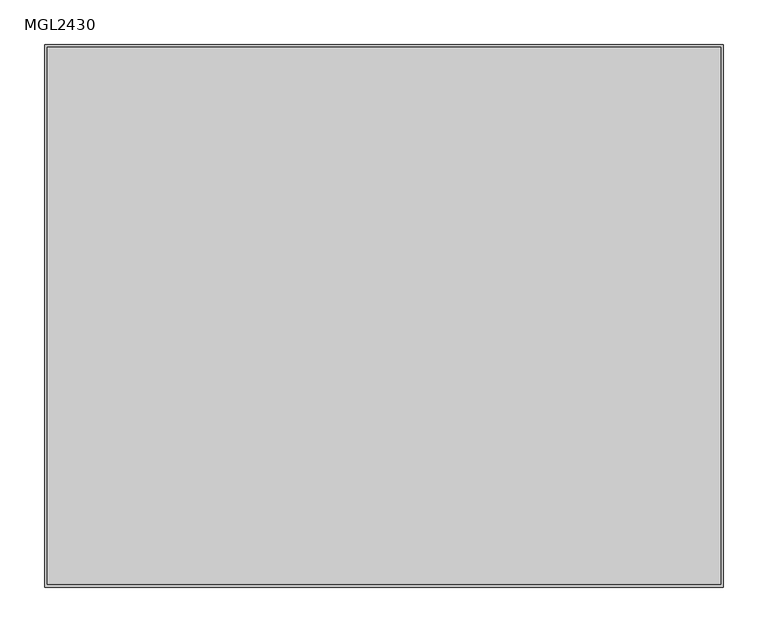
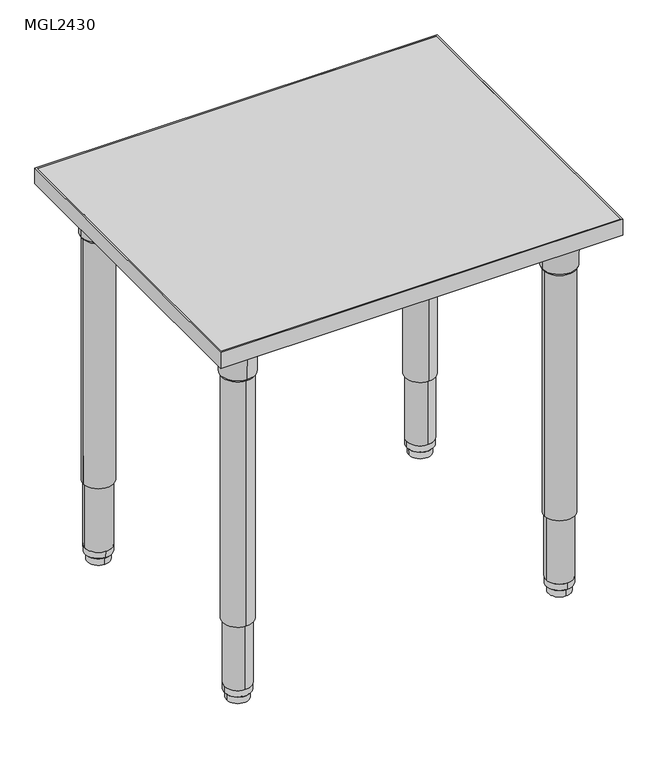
"""IFC4 building model written with IfcOpenShell, lengths in millimetres: furniture geometry, ERG-Mingle-Table-Rectangle : MGL2430."""

from ifc_helpers import new_model, si_unit, point, frame, frame_2d, origin, place, context, project, spatial, polyline, circle_curve, trimmed, segment, composite_curve, outline, extrude, source, transform, mapped, element, save
from ifc_brep_helpers import plane_surface, cylinder_surface, revolved_surface, advanced_brep


def mgl2430_6a437351(model_context):
    return source(origin(), model_context, "Body", "SolidModel", [
        advanced_brep(
        [(274.7646842, -228.6, 650.5933069), (334.8353158, -228.6, 650.5933069), (304.8, -228.6, 650.5933069), (272.656117, -228.6, 654.3580481), (336.943883, -228.6, 654.3580481), (271.7206351, -228.6, 707.7631458), (337.8793649, -228.6, 707.7631458), (268.271083, -228.6, 714.1198315), (341.328917, -228.6, 714.1198315), (268.271083, -228.6, 726.8198315), (341.328917, -228.6, 726.8198315), (304.8, -228.6, 726.8198315)],
        [
            (0, 1, circle_curve(frame((304.8, -228.6, 650.5933069), z_axis=(0.0, 0.0, -1.0), x_axis=(1.0, 0.0, 0.0)), 30.0353158)),
            (1, 2),
            (2, 0),
            (1, 0, circle_curve(frame((304.8, -228.6, 650.5933069), z_axis=(0.0, 0.0, -1.0), x_axis=(1.0, 0.0, 0.0)), 30.0353158)),
            (3, 4, circle_curve(frame((304.8, -228.6, 654.3580481), z_axis=(0.0, 0.0, -1.0), x_axis=(1.0, 0.0, 0.0)), 32.143883)),
            (4, 1),
            (0, 3),
            (4, 3, circle_curve(frame((304.8, -228.6, 654.3580481), z_axis=(0.0, 0.0, -1.0), x_axis=(1.0, 0.0, 0.0)), 32.143883)),
            (5, 6, circle_curve(frame((304.8, -228.6, 707.7631458), z_axis=(0.0, 0.0, -1.0), x_axis=(1.0, 0.0, 0.0)), 33.0793649)),
            (6, 4),
            (3, 5),
            (6, 5, circle_curve(frame((304.8, -228.6, 707.7631458), z_axis=(0.0, 0.0, -1.0), x_axis=(1.0, 0.0, 0.0)), 33.0793649)),
            (7, 8, circle_curve(frame((304.8, -228.6, 714.1198315), z_axis=(0.0, 0.0, -1.0), x_axis=(1.0, 0.0, 0.0)), 36.528917)),
            (8, 6),
            (5, 7),
            (8, 7, circle_curve(frame((304.8, -228.6, 714.1198315), z_axis=(0.0, 0.0, -1.0), x_axis=(1.0, 0.0, 0.0)), 36.528917)),
            (9, 10, circle_curve(frame((304.8, -228.6, 726.8198315), z_axis=(0.0, 0.0, -1.0), x_axis=(1.0, 0.0, 0.0)), 36.528917)),
            (10, 8),
            (7, 9),
            (10, 9, circle_curve(frame((304.8, -228.6, 726.8198315), z_axis=(0.0, 0.0, -1.0), x_axis=(1.0, 0.0, 0.0)), 36.528917)),
            (11, 10),
            (9, 11),
        ],
        [
            plane_surface(frame((304.8, -228.6, 650.5933069), z_axis=(0.0, 0.0, -1.0), x_axis=(1.0, 0.0, 0.0))),
            revolved_surface(polyline([(334.8353158, -228.6, 650.5933069), (336.943883, -228.6, 654.3580481)]), (304.8, -228.6, 726.8198315), (0.0, 0.0, 1.0)),
            revolved_surface(polyline([(336.943883, -228.6, 654.3580481), (337.8793649, -228.6, 707.7631458)]), (304.8, -228.6, 726.8198315), (0.0, 0.0, 1.0)),
            revolved_surface(polyline([(337.8793649, -228.6, 707.7631458), (341.328917, -228.6, 714.1198315)]), (304.8, -228.6, 726.8198315), (0.0, 0.0, 1.0)),
            cylinder_surface(frame((304.8, -228.6, 726.8198315), z_axis=(0.0, 0.0, 1.0), x_axis=(1.0, 0.0, 0.0)), 36.528917),
            plane_surface(frame((304.8, -228.6, 726.8198315), z_axis=(0.0, 0.0, 1.0), x_axis=(1.0, 0.0, 0.0))),
        ],
        [
            (0, [[1, 2, 3]]),
            (0, [[4, -3, -2]]),
            (1, [[5, 6, -1, 7]]),
            (1, [[8, -7, -4, -6]]),
            (2, [[9, 10, -5, 11]]),
            (2, [[12, -11, -8, -10]]),
            (3, [[13, 14, -9, 15]]),
            (3, [[16, -15, -12, -14]]),
            (4, [[17, 18, -13, 19]]),
            (4, [[20, -19, -16, -18]]),
            (5, [[21, -17, 22]]),
            (5, [[-22, -20, -21]]),
        ],
    ),
        extrude(outline(composite_curve([segment(polyline([(350.673768, -146.0223426), (350.673768, -259.7483754)]), True, "CONTINUOUS"), segment(trimmed(circle_curve(frame_2d((334.798768, -259.7483754)), 15.875), [point((350.673768, -259.7483754))], [point((334.798768, -275.6233754))], False, "CARTESIAN"), True, "CONTINUOUS"), segment(polyline([(334.798768, -275.6233754), (221.0864205, -275.6233754)]), True, "CONTINUOUS"), segment(trimmed(circle_curve(frame_2d((221.0864205, -262.9233754)), 12.7), [point((221.0864205, -275.6233754))], [point((208.4491923, -261.6622394))], False, "CARTESIAN"), True, "CONTINUOUS"), segment(trimmed(circle_curve(frame_2d((350.9486077, -275.8830117)), 143.2072406), [point((208.4491923, -261.6622394))], [point((336.7111525, -133.3852622))], False, "CARTESIAN"), True, "CONTINUOUS"), segment(trimmed(circle_curve(frame_2d((337.973768, -146.0223426)), 12.7), [point((336.7111525, -133.3852622))], [point((350.673768, -146.0223426))], False, "CARTESIAN"), True, "CONTINUOUS")], self_intersect=False)), frame((0.0, 0.0, 726.8198315), z_axis=(0.0, 0.0, 1.0), x_axis=(1.0, 0.0, 0.0)), (0.0, 0.0, 1.0), 3.4301685),
        extrude(outline(composite_curve([segment(trimmed(circle_curve(frame_2d((304.8, -228.6)), 28.575), [point((333.375, -228.6))], [point((276.225, -228.6))], False, "CARTESIAN"), True, "CONTINUOUS"), segment(trimmed(circle_curve(frame_2d((304.8, -228.6)), 28.575), [point((276.225, -228.6))], [point((333.375, -228.6))], False, "CARTESIAN"), True, "CONTINUOUS")], self_intersect=False)), frame((0.0, 0.0, 158.3876979), z_axis=(0.0, 0.0, 1.0), x_axis=(1.0, 0.0, 0.0)), (0.0, 0.0, 1.0), 495.4089866),
        extrude(outline(composite_curve([segment(trimmed(circle_curve(frame_2d((304.8, -228.6)), 25.4), [point((330.2, -228.6))], [point((279.4, -228.6))], False, "CARTESIAN"), True, "CONTINUOUS"), segment(trimmed(circle_curve(frame_2d((304.8, -228.6)), 25.4), [point((279.4, -228.6))], [point((330.2, -228.6))], False, "CARTESIAN"), True, "CONTINUOUS")], self_intersect=False)), frame((0.0, 0.0, 28.9580435), z_axis=(0.0, 0.0, 1.0), x_axis=(1.0, 0.0, 0.0)), (0.0, 0.0, 1.0), 176.7049119),
        advanced_brep(
        [(304.8, -203.3649896, 28.9580185), (304.8, -253.8350104, 28.9580185), (304.8, -228.6, 28.9580185), (304.8, -203.500761, 16.3032949), (304.8, -253.699239, 16.3032949), (304.8, -205.0160619, 14.7291007), (304.8, -252.1839381, 14.7291007), (304.8, -207.4591422, 14.7291007), (304.8, -249.7408578, 14.7291007), (304.8, -207.6521336, 0.0), (304.8, -249.5478664, 0.0), (304.8, -228.6, 0.0)],
        [
            (0, 1, circle_curve(frame((304.8, -228.6, 28.9580185), z_axis=(0.0, 0.0, 1.0), x_axis=(0.0, -1.0, 0.0)), 25.2350104)),
            (1, 2),
            (2, 0),
            (1, 0, circle_curve(frame((304.8, -228.6, 28.9580185), z_axis=(0.0, 0.0, 1.0), x_axis=(0.0, -1.0, 0.0)), 25.2350104)),
            (3, 4, circle_curve(frame((304.8, -228.6, 16.3032949), z_axis=(0.0, 0.0, 1.0), x_axis=(0.0, -1.0, 0.0)), 25.099239)),
            (4, 1),
            (0, 3),
            (4, 3, circle_curve(frame((304.8, -228.6, 16.3032949), z_axis=(0.0, 0.0, 1.0), x_axis=(0.0, -1.0, 0.0)), 25.099239)),
            (5, 6, circle_curve(frame((304.8, -228.6, 14.7291007), z_axis=(0.0, 0.0, 1.0), x_axis=(0.0, -1.0, 0.0)), 23.5839381)),
            (6, 4),
            (3, 5),
            (6, 5, circle_curve(frame((304.8, -228.6, 14.7291007), z_axis=(0.0, 0.0, 1.0), x_axis=(0.0, -1.0, 0.0)), 23.5839381)),
            (7, 8, circle_curve(frame((304.8, -228.6, 14.7291007), z_axis=(0.0, 0.0, 1.0), x_axis=(0.0, -1.0, 0.0)), 21.1408578)),
            (8, 6),
            (5, 7),
            (8, 7, circle_curve(frame((304.8, -228.6, 14.7291007), z_axis=(0.0, 0.0, 1.0), x_axis=(0.0, -1.0, 0.0)), 21.1408578)),
            (9, 10, circle_curve(frame((304.8, -228.6, 0.0), z_axis=(0.0, 0.0, 1.0), x_axis=(0.0, -1.0, 0.0)), 20.9478664)),
            (10, 8),
            (7, 9),
            (10, 9, circle_curve(frame((304.8, -228.6, 0.0), z_axis=(0.0, 0.0, 1.0), x_axis=(0.0, -1.0, 0.0)), 20.9478664)),
            (11, 10),
            (9, 11),
        ],
        [
            plane_surface(frame((304.8, -228.6, 28.9580185), z_axis=(0.0, 0.0, 1.0), x_axis=(0.0, -1.0, 0.0))),
            revolved_surface(polyline([(304.8, -253.8350104, 28.9580185), (304.8, -253.699239, 16.3032949)]), (304.8, -228.6, 0.0), (0.0, 0.0, -1.0)),
            revolved_surface(polyline([(304.8, -253.699239, 16.3032949), (304.8, -252.1839381, 14.7291007)]), (304.8, -228.6, 0.0), (0.0, 0.0, -1.0)),
            plane_surface(frame((304.8, -228.6, 14.7291007), z_axis=(0.0, 0.0, -1.0), x_axis=(0.0, -1.0, 0.0))),
            revolved_surface(polyline([(304.8, -249.7408578, 14.7291007), (304.8, -249.5478664, 0.0)]), (304.8, -228.6, 0.0), (0.0, 0.0, -1.0)),
            plane_surface(frame((304.8, -228.6, 0.0), z_axis=(0.0, 0.0, -1.0), x_axis=(0.0, -1.0, 0.0))),
        ],
        [
            (0, [[1, 2, 3]]),
            (0, [[4, -3, -2]]),
            (1, [[5, 6, -1, 7]]),
            (1, [[8, -7, -4, -6]]),
            (2, [[9, 10, -5, 11]]),
            (2, [[12, -11, -8, -10]]),
            (3, [[13, 14, -9, 15]]),
            (3, [[16, -15, -12, -14]]),
            (4, [[17, 18, -13, 19]]),
            (4, [[20, -19, -16, -18]]),
            (5, [[21, -17, 22]]),
            (5, [[-22, -20, -21]]),
        ],
    ),
        advanced_brep(
        [(-304.8, -198.5646842, 650.5933069), (-304.8, -258.6353158, 650.5933069), (-304.8, -228.6, 650.5933069), (-304.8, -196.456117, 654.3580481), (-304.8, -260.743883, 654.3580481), (-304.8, -195.5206351, 707.7631458), (-304.8, -261.6793649, 707.7631458), (-304.8, -192.071083, 714.1198315), (-304.8, -265.128917, 714.1198315), (-304.8, -192.071083, 726.8198315), (-304.8, -265.128917, 726.8198315), (-304.8, -228.6, 726.8198315)],
        [
            (0, 1, circle_curve(frame((-304.8, -228.6, 650.5933069), z_axis=(0.0, 0.0, -1.0), x_axis=(0.0, -1.0, 0.0)), 30.0353158)),
            (1, 2),
            (2, 0),
            (1, 0, circle_curve(frame((-304.8, -228.6, 650.5933069), z_axis=(0.0, 0.0, -1.0), x_axis=(0.0, -1.0, 0.0)), 30.0353158)),
            (3, 4, circle_curve(frame((-304.8, -228.6, 654.3580481), z_axis=(0.0, 0.0, -1.0), x_axis=(0.0, -1.0, 0.0)), 32.143883)),
            (4, 1),
            (0, 3),
            (4, 3, circle_curve(frame((-304.8, -228.6, 654.3580481), z_axis=(0.0, 0.0, -1.0), x_axis=(0.0, -1.0, 0.0)), 32.143883)),
            (5, 6, circle_curve(frame((-304.8, -228.6, 707.7631458), z_axis=(0.0, 0.0, -1.0), x_axis=(0.0, -1.0, 0.0)), 33.0793649)),
            (6, 4),
            (3, 5),
            (6, 5, circle_curve(frame((-304.8, -228.6, 707.7631458), z_axis=(0.0, 0.0, -1.0), x_axis=(0.0, -1.0, 0.0)), 33.0793649)),
            (7, 8, circle_curve(frame((-304.8, -228.6, 714.1198315), z_axis=(0.0, 0.0, -1.0), x_axis=(0.0, -1.0, 0.0)), 36.528917)),
            (8, 6),
            (5, 7),
            (8, 7, circle_curve(frame((-304.8, -228.6, 714.1198315), z_axis=(0.0, 0.0, -1.0), x_axis=(0.0, -1.0, 0.0)), 36.528917)),
            (9, 10, circle_curve(frame((-304.8, -228.6, 726.8198315), z_axis=(0.0, 0.0, -1.0), x_axis=(0.0, -1.0, 0.0)), 36.528917)),
            (10, 8),
            (7, 9),
            (10, 9, circle_curve(frame((-304.8, -228.6, 726.8198315), z_axis=(0.0, 0.0, -1.0), x_axis=(0.0, -1.0, 0.0)), 36.528917)),
            (11, 10),
            (9, 11),
        ],
        [
            plane_surface(frame((-304.8, -228.6, 650.5933069), z_axis=(0.0, 0.0, -1.0), x_axis=(0.0, -1.0, 0.0))),
            revolved_surface(polyline([(-304.8, -258.6353158, 650.5933069), (-304.8, -260.743883, 654.3580481)]), (-304.8, -228.6, 726.8198315), (0.0, 0.0, 1.0)),
            revolved_surface(polyline([(-304.8, -260.743883, 654.3580481), (-304.8, -261.6793649, 707.7631458)]), (-304.8, -228.6, 726.8198315), (0.0, 0.0, 1.0)),
            revolved_surface(polyline([(-304.8, -261.6793649, 707.7631458), (-304.8, -265.128917, 714.1198315)]), (-304.8, -228.6, 726.8198315), (0.0, 0.0, 1.0)),
            cylinder_surface(frame((-304.8, -228.6, 726.8198315), z_axis=(0.0, 0.0, 1.0), x_axis=(0.0, -1.0, 0.0)), 36.528917),
            plane_surface(frame((-304.8, -228.6, 726.8198315), z_axis=(0.0, 0.0, 1.0), x_axis=(0.0, -1.0, 0.0))),
        ],
        [
            (0, [[1, 2, 3]]),
            (0, [[4, -3, -2]]),
            (1, [[5, 6, -1, 7]]),
            (1, [[8, -7, -4, -6]]),
            (2, [[9, 10, -5, 11]]),
            (2, [[12, -11, -8, -10]]),
            (3, [[13, 14, -9, 15]]),
            (3, [[16, -15, -12, -14]]),
            (4, [[17, 18, -13, 19]]),
            (4, [[20, -19, -16, -18]]),
            (5, [[21, -17, 22]]),
            (5, [[-22, -20, -21]]),
        ],
    ),
        extrude(outline(composite_curve([segment(polyline([(-222.2223426, -274.473768), (-335.9483754, -274.473768)]), True, "CONTINUOUS"), segment(trimmed(circle_curve(frame_2d((-335.9483754, -258.598768)), 15.875), [point((-335.9483754, -274.473768))], [point((-351.8233754, -258.598768))], False, "CARTESIAN"), True, "CONTINUOUS"), segment(polyline([(-351.8233754, -258.598768), (-351.8233754, -144.8864205)]), True, "CONTINUOUS"), segment(trimmed(circle_curve(frame_2d((-339.1233754, -144.8864205)), 12.7), [point((-351.8233754, -144.8864205))], [point((-337.8622394, -132.2491923))], False, "CARTESIAN"), True, "CONTINUOUS"), segment(trimmed(circle_curve(frame_2d((-352.0830117, -274.7486077)), 143.2072406), [point((-337.8622394, -132.2491923))], [point((-209.5852622, -260.5111525))], False, "CARTESIAN"), True, "CONTINUOUS"), segment(trimmed(circle_curve(frame_2d((-222.2223426, -261.773768)), 12.7), [point((-209.5852622, -260.5111525))], [point((-222.2223426, -274.473768))], False, "CARTESIAN"), True, "CONTINUOUS")], self_intersect=False)), frame((0.0, 0.0, 726.8198315), z_axis=(0.0, 0.0, 1.0), x_axis=(1.0, 0.0, 0.0)), (0.0, 0.0, 1.0), 3.4301685),
        extrude(outline(composite_curve([segment(trimmed(circle_curve(frame_2d((-304.8, -228.6)), 28.575), [point((-304.8, -257.175))], [point((-304.8, -200.025))], False, "CARTESIAN"), True, "CONTINUOUS"), segment(trimmed(circle_curve(frame_2d((-304.8, -228.6)), 28.575), [point((-304.8, -200.025))], [point((-304.8, -257.175))], False, "CARTESIAN"), True, "CONTINUOUS")], self_intersect=False)), frame((0.0, 0.0, 158.3876979), z_axis=(0.0, 0.0, 1.0), x_axis=(1.0, 0.0, 0.0)), (0.0, 0.0, 1.0), 495.4089866),
        extrude(outline(composite_curve([segment(trimmed(circle_curve(frame_2d((-304.8, -228.6)), 25.4), [point((-304.8, -254.0))], [point((-304.8, -203.2))], False, "CARTESIAN"), True, "CONTINUOUS"), segment(trimmed(circle_curve(frame_2d((-304.8, -228.6)), 25.4), [point((-304.8, -203.2))], [point((-304.8, -254.0))], False, "CARTESIAN"), True, "CONTINUOUS")], self_intersect=False)), frame((0.0, 0.0, 28.9580435), z_axis=(0.0, 0.0, 1.0), x_axis=(1.0, 0.0, 0.0)), (0.0, 0.0, 1.0), 176.7049119),
        advanced_brep(
        [(-279.5649896, -228.6, 28.9580185), (-330.0350104, -228.6, 28.9580185), (-304.8, -228.6, 28.9580185), (-279.700761, -228.6, 16.3032949), (-329.899239, -228.6, 16.3032949), (-281.2160619, -228.6, 14.7291007), (-328.3839381, -228.6, 14.7291007), (-283.6591422, -228.6, 14.7291007), (-325.9408578, -228.6, 14.7291007), (-283.8521336, -228.6, 0.0), (-325.7478664, -228.6, 0.0), (-304.8, -228.6, 0.0)],
        [
            (0, 1, circle_curve(frame((-304.8, -228.6, 28.9580185), z_axis=(0.0, 0.0, 1.0), x_axis=(-1.0, 0.0, 0.0)), 25.2350104)),
            (1, 2),
            (2, 0),
            (1, 0, circle_curve(frame((-304.8, -228.6, 28.9580185), z_axis=(0.0, 0.0, 1.0), x_axis=(-1.0, 0.0, 0.0)), 25.2350104)),
            (3, 4, circle_curve(frame((-304.8, -228.6, 16.3032949), z_axis=(0.0, 0.0, 1.0), x_axis=(-1.0, 0.0, 0.0)), 25.099239)),
            (4, 1),
            (0, 3),
            (4, 3, circle_curve(frame((-304.8, -228.6, 16.3032949), z_axis=(0.0, 0.0, 1.0), x_axis=(-1.0, 0.0, 0.0)), 25.099239)),
            (5, 6, circle_curve(frame((-304.8, -228.6, 14.7291007), z_axis=(0.0, 0.0, 1.0), x_axis=(-1.0, 0.0, 0.0)), 23.5839381)),
            (6, 4),
            (3, 5),
            (6, 5, circle_curve(frame((-304.8, -228.6, 14.7291007), z_axis=(0.0, 0.0, 1.0), x_axis=(-1.0, 0.0, 0.0)), 23.5839381)),
            (7, 8, circle_curve(frame((-304.8, -228.6, 14.7291007), z_axis=(0.0, 0.0, 1.0), x_axis=(-1.0, 0.0, 0.0)), 21.1408578)),
            (8, 6),
            (5, 7),
            (8, 7, circle_curve(frame((-304.8, -228.6, 14.7291007), z_axis=(0.0, 0.0, 1.0), x_axis=(-1.0, 0.0, 0.0)), 21.1408578)),
            (9, 10, circle_curve(frame((-304.8, -228.6, 0.0), z_axis=(0.0, 0.0, 1.0), x_axis=(-1.0, 0.0, 0.0)), 20.9478664)),
            (10, 8),
            (7, 9),
            (10, 9, circle_curve(frame((-304.8, -228.6, 0.0), z_axis=(0.0, 0.0, 1.0), x_axis=(-1.0, 0.0, 0.0)), 20.9478664)),
            (11, 10),
            (9, 11),
        ],
        [
            plane_surface(frame((-304.8, -228.6, 28.9580185), z_axis=(0.0, 0.0, 1.0), x_axis=(-1.0, 0.0, 0.0))),
            revolved_surface(polyline([(-330.0350104, -228.6, 28.9580185), (-329.899239, -228.6, 16.3032949)]), (-304.8, -228.6, 0.0), (0.0, 0.0, -1.0)),
            revolved_surface(polyline([(-329.899239, -228.6, 16.3032949), (-328.3839381, -228.6, 14.7291007)]), (-304.8, -228.6, 0.0), (0.0, 0.0, -1.0)),
            plane_surface(frame((-304.8, -228.6, 14.7291007), z_axis=(0.0, 0.0, -1.0), x_axis=(-1.0, 0.0, 0.0))),
            revolved_surface(polyline([(-325.9408578, -228.6, 14.7291007), (-325.7478664, -228.6, 0.0)]), (-304.8, -228.6, 0.0), (0.0, 0.0, -1.0)),
            plane_surface(frame((-304.8, -228.6, 0.0), z_axis=(0.0, 0.0, -1.0), x_axis=(-1.0, 0.0, 0.0))),
        ],
        [
            (0, [[1, 2, 3]]),
            (0, [[4, -3, -2]]),
            (1, [[5, 6, -1, 7]]),
            (1, [[8, -7, -4, -6]]),
            (2, [[9, 10, -5, 11]]),
            (2, [[12, -11, -8, -10]]),
            (3, [[13, 14, -9, 15]]),
            (3, [[16, -15, -12, -14]]),
            (4, [[17, 18, -13, 19]]),
            (4, [[20, -19, -16, -18]]),
            (5, [[21, -17, 22]]),
            (5, [[-22, -20, -21]]),
        ],
    ),
        advanced_brep(
        [(304.8, 198.5646842, 650.5933069), (304.8, 258.6353158, 650.5933069), (304.8, 228.6, 650.5933069), (304.8, 196.456117, 654.3580481), (304.8, 260.743883, 654.3580481), (304.8, 195.5206351, 707.7631458), (304.8, 261.6793649, 707.7631458), (304.8, 192.071083, 714.1198315), (304.8, 265.128917, 714.1198315), (304.8, 192.071083, 726.8198315), (304.8, 265.128917, 726.8198315), (304.8, 228.6, 726.8198315)],
        [
            (0, 1, circle_curve(frame((304.8, 228.6, 650.5933069), z_axis=(0.0, 0.0, -1.0), x_axis=(0.0, 1.0, 0.0)), 30.0353158)),
            (1, 2),
            (2, 0),
            (1, 0, circle_curve(frame((304.8, 228.6, 650.5933069), z_axis=(0.0, 0.0, -1.0), x_axis=(0.0, 1.0, 0.0)), 30.0353158)),
            (3, 4, circle_curve(frame((304.8, 228.6, 654.3580481), z_axis=(0.0, 0.0, -1.0), x_axis=(0.0, 1.0, 0.0)), 32.143883)),
            (4, 1),
            (0, 3),
            (4, 3, circle_curve(frame((304.8, 228.6, 654.3580481), z_axis=(0.0, 0.0, -1.0), x_axis=(0.0, 1.0, 0.0)), 32.143883)),
            (5, 6, circle_curve(frame((304.8, 228.6, 707.7631458), z_axis=(0.0, 0.0, -1.0), x_axis=(0.0, 1.0, 0.0)), 33.0793649)),
            (6, 4),
            (3, 5),
            (6, 5, circle_curve(frame((304.8, 228.6, 707.7631458), z_axis=(0.0, 0.0, -1.0), x_axis=(0.0, 1.0, 0.0)), 33.0793649)),
            (7, 8, circle_curve(frame((304.8, 228.6, 714.1198315), z_axis=(0.0, 0.0, -1.0), x_axis=(0.0, 1.0, 0.0)), 36.528917)),
            (8, 6),
            (5, 7),
            (8, 7, circle_curve(frame((304.8, 228.6, 714.1198315), z_axis=(0.0, 0.0, -1.0), x_axis=(0.0, 1.0, 0.0)), 36.528917)),
            (9, 10, circle_curve(frame((304.8, 228.6, 726.8198315), z_axis=(0.0, 0.0, -1.0), x_axis=(0.0, 1.0, 0.0)), 36.528917)),
            (10, 8),
            (7, 9),
            (10, 9, circle_curve(frame((304.8, 228.6, 726.8198315), z_axis=(0.0, 0.0, -1.0), x_axis=(0.0, 1.0, 0.0)), 36.528917)),
            (11, 10),
            (9, 11),
        ],
        [
            plane_surface(frame((304.8, 228.6, 650.5933069), z_axis=(0.0, 0.0, -1.0), x_axis=(0.0, 1.0, 0.0))),
            revolved_surface(polyline([(304.8, 258.6353158, 650.5933069), (304.8, 260.743883, 654.3580481)]), (304.8, 228.6, 726.8198315), (0.0, 0.0, 1.0)),
            revolved_surface(polyline([(304.8, 260.743883, 654.3580481), (304.8, 261.6793649, 707.7631458)]), (304.8, 228.6, 726.8198315), (0.0, 0.0, 1.0)),
            revolved_surface(polyline([(304.8, 261.6793649, 707.7631458), (304.8, 265.128917, 714.1198315)]), (304.8, 228.6, 726.8198315), (0.0, 0.0, 1.0)),
            cylinder_surface(frame((304.8, 228.6, 726.8198315), z_axis=(0.0, 0.0, 1.0), x_axis=(0.0, 1.0, 0.0)), 36.528917),
            plane_surface(frame((304.8, 228.6, 726.8198315), z_axis=(0.0, 0.0, 1.0), x_axis=(0.0, 1.0, 0.0))),
        ],
        [
            (0, [[1, 2, 3]]),
            (0, [[4, -3, -2]]),
            (1, [[5, 6, -1, 7]]),
            (1, [[8, -7, -4, -6]]),
            (2, [[9, 10, -5, 11]]),
            (2, [[12, -11, -8, -10]]),
            (3, [[13, 14, -9, 15]]),
            (3, [[16, -15, -12, -14]]),
            (4, [[17, 18, -13, 19]]),
            (4, [[20, -19, -16, -18]]),
            (5, [[21, -17, 22]]),
            (5, [[-22, -20, -21]]),
        ],
    ),
        extrude(outline(composite_curve([segment(polyline([(222.2223426, 274.473768), (335.9483754, 274.473768)]), True, "CONTINUOUS"), segment(trimmed(circle_curve(frame_2d((335.9483754, 258.598768)), 15.875), [point((335.9483754, 274.473768))], [point((351.8233754, 258.598768))], False, "CARTESIAN"), True, "CONTINUOUS"), segment(polyline([(351.8233754, 258.598768), (351.8233754, 144.8864205)]), True, "CONTINUOUS"), segment(trimmed(circle_curve(frame_2d((339.1233754, 144.8864205)), 12.7), [point((351.8233754, 144.8864205))], [point((337.8622394, 132.2491923))], False, "CARTESIAN"), True, "CONTINUOUS"), segment(trimmed(circle_curve(frame_2d((352.0830117, 274.7486077)), 143.2072406), [point((337.8622394, 132.2491923))], [point((209.5852622, 260.5111525))], False, "CARTESIAN"), True, "CONTINUOUS"), segment(trimmed(circle_curve(frame_2d((222.2223426, 261.773768)), 12.7), [point((209.5852622, 260.5111525))], [point((222.2223426, 274.473768))], False, "CARTESIAN"), True, "CONTINUOUS")], self_intersect=False)), frame((0.0, 0.0, 726.8198315), z_axis=(0.0, 0.0, 1.0), x_axis=(1.0, 0.0, 0.0)), (0.0, 0.0, 1.0), 3.4301685),
        extrude(outline(composite_curve([segment(trimmed(circle_curve(frame_2d((304.8, 228.6)), 28.575), [point((304.8, 257.175))], [point((304.8, 200.025))], False, "CARTESIAN"), True, "CONTINUOUS"), segment(trimmed(circle_curve(frame_2d((304.8, 228.6)), 28.575), [point((304.8, 200.025))], [point((304.8, 257.175))], False, "CARTESIAN"), True, "CONTINUOUS")], self_intersect=False)), frame((0.0, 0.0, 158.3876979), z_axis=(0.0, 0.0, 1.0), x_axis=(1.0, 0.0, 0.0)), (0.0, 0.0, 1.0), 495.4089866),
        extrude(outline(composite_curve([segment(trimmed(circle_curve(frame_2d((304.8, 228.6)), 25.4), [point((304.8, 254.0))], [point((304.8, 203.2))], False, "CARTESIAN"), True, "CONTINUOUS"), segment(trimmed(circle_curve(frame_2d((304.8, 228.6)), 25.4), [point((304.8, 203.2))], [point((304.8, 254.0))], False, "CARTESIAN"), True, "CONTINUOUS")], self_intersect=False)), frame((0.0, 0.0, 28.9580435), z_axis=(0.0, 0.0, 1.0), x_axis=(1.0, 0.0, 0.0)), (0.0, 0.0, 1.0), 176.7049119),
        advanced_brep(
        [(279.5649896, 228.6, 28.9580185), (330.0350104, 228.6, 28.9580185), (304.8, 228.6, 28.9580185), (279.700761, 228.6, 16.3032949), (329.899239, 228.6, 16.3032949), (281.2160619, 228.6, 14.7291007), (328.3839381, 228.6, 14.7291007), (283.6591422, 228.6, 14.7291007), (325.9408578, 228.6, 14.7291007), (283.8521336, 228.6, 0.0), (325.7478664, 228.6, 0.0), (304.8, 228.6, 0.0)],
        [
            (0, 1, circle_curve(frame((304.8, 228.6, 28.9580185), z_axis=(0.0, 0.0, 1.0), x_axis=(1.0, 0.0, 0.0)), 25.2350104)),
            (1, 2),
            (2, 0),
            (1, 0, circle_curve(frame((304.8, 228.6, 28.9580185), z_axis=(0.0, 0.0, 1.0), x_axis=(1.0, 0.0, 0.0)), 25.2350104)),
            (3, 4, circle_curve(frame((304.8, 228.6, 16.3032949), z_axis=(0.0, 0.0, 1.0), x_axis=(1.0, 0.0, 0.0)), 25.099239)),
            (4, 1),
            (0, 3),
            (4, 3, circle_curve(frame((304.8, 228.6, 16.3032949), z_axis=(0.0, 0.0, 1.0), x_axis=(1.0, 0.0, 0.0)), 25.099239)),
            (5, 6, circle_curve(frame((304.8, 228.6, 14.7291007), z_axis=(0.0, 0.0, 1.0), x_axis=(1.0, 0.0, 0.0)), 23.5839381)),
            (6, 4),
            (3, 5),
            (6, 5, circle_curve(frame((304.8, 228.6, 14.7291007), z_axis=(0.0, 0.0, 1.0), x_axis=(1.0, 0.0, 0.0)), 23.5839381)),
            (7, 8, circle_curve(frame((304.8, 228.6, 14.7291007), z_axis=(0.0, 0.0, 1.0), x_axis=(1.0, 0.0, 0.0)), 21.1408578)),
            (8, 6),
            (5, 7),
            (8, 7, circle_curve(frame((304.8, 228.6, 14.7291007), z_axis=(0.0, 0.0, 1.0), x_axis=(1.0, 0.0, 0.0)), 21.1408578)),
            (9, 10, circle_curve(frame((304.8, 228.6, 0.0), z_axis=(0.0, 0.0, 1.0), x_axis=(1.0, 0.0, 0.0)), 20.9478664)),
            (10, 8),
            (7, 9),
            (10, 9, circle_curve(frame((304.8, 228.6, 0.0), z_axis=(0.0, 0.0, 1.0), x_axis=(1.0, 0.0, 0.0)), 20.9478664)),
            (11, 10),
            (9, 11),
        ],
        [
            plane_surface(frame((304.8, 228.6, 28.9580185), z_axis=(0.0, 0.0, 1.0), x_axis=(1.0, 0.0, 0.0))),
            revolved_surface(polyline([(330.0350104, 228.6, 28.9580185), (329.899239, 228.6, 16.3032949)]), (304.8, 228.6, 0.0), (0.0, 0.0, -1.0)),
            revolved_surface(polyline([(329.899239, 228.6, 16.3032949), (328.3839381, 228.6, 14.7291007)]), (304.8, 228.6, 0.0), (0.0, 0.0, -1.0)),
            plane_surface(frame((304.8, 228.6, 14.7291007), z_axis=(0.0, 0.0, -1.0), x_axis=(1.0, 0.0, 0.0))),
            revolved_surface(polyline([(325.9408578, 228.6, 14.7291007), (325.7478664, 228.6, 0.0)]), (304.8, 228.6, 0.0), (0.0, 0.0, -1.0)),
            plane_surface(frame((304.8, 228.6, 0.0), z_axis=(0.0, 0.0, -1.0), x_axis=(1.0, 0.0, 0.0))),
        ],
        [
            (0, [[1, 2, 3]]),
            (0, [[4, -3, -2]]),
            (1, [[5, 6, -1, 7]]),
            (1, [[8, -7, -4, -6]]),
            (2, [[9, 10, -5, 11]]),
            (2, [[12, -11, -8, -10]]),
            (3, [[13, 14, -9, 15]]),
            (3, [[16, -15, -12, -14]]),
            (4, [[17, 18, -13, 19]]),
            (4, [[20, -19, -16, -18]]),
            (5, [[21, -17, 22]]),
            (5, [[-22, -20, -21]]),
        ],
    ),
        advanced_brep(
        [(-274.7646842, 228.6, 650.5933069), (-334.8353158, 228.6, 650.5933069), (-304.8, 228.6, 650.5933069), (-272.656117, 228.6, 654.3580481), (-336.943883, 228.6, 654.3580481), (-271.7206351, 228.6, 707.7631458), (-337.8793649, 228.6, 707.7631458), (-268.271083, 228.6, 714.1198315), (-341.328917, 228.6, 714.1198315), (-268.271083, 228.6, 726.8198315), (-341.328917, 228.6, 726.8198315), (-304.8, 228.6, 726.8198315)],
        [
            (0, 1, circle_curve(frame((-304.8, 228.6, 650.5933069), z_axis=(0.0, 0.0, -1.0), x_axis=(-1.0, 0.0, 0.0)), 30.0353158)),
            (1, 2),
            (2, 0),
            (1, 0, circle_curve(frame((-304.8, 228.6, 650.5933069), z_axis=(0.0, 0.0, -1.0), x_axis=(-1.0, 0.0, 0.0)), 30.0353158)),
            (3, 4, circle_curve(frame((-304.8, 228.6, 654.3580481), z_axis=(0.0, 0.0, -1.0), x_axis=(-1.0, 0.0, 0.0)), 32.143883)),
            (4, 1),
            (0, 3),
            (4, 3, circle_curve(frame((-304.8, 228.6, 654.3580481), z_axis=(0.0, 0.0, -1.0), x_axis=(-1.0, 0.0, 0.0)), 32.143883)),
            (5, 6, circle_curve(frame((-304.8, 228.6, 707.7631458), z_axis=(0.0, 0.0, -1.0), x_axis=(-1.0, 0.0, 0.0)), 33.0793649)),
            (6, 4),
            (3, 5),
            (6, 5, circle_curve(frame((-304.8, 228.6, 707.7631458), z_axis=(0.0, 0.0, -1.0), x_axis=(-1.0, 0.0, 0.0)), 33.0793649)),
            (7, 8, circle_curve(frame((-304.8, 228.6, 714.1198315), z_axis=(0.0, 0.0, -1.0), x_axis=(-1.0, 0.0, 0.0)), 36.528917)),
            (8, 6),
            (5, 7),
            (8, 7, circle_curve(frame((-304.8, 228.6, 714.1198315), z_axis=(0.0, 0.0, -1.0), x_axis=(-1.0, 0.0, 0.0)), 36.528917)),
            (9, 10, circle_curve(frame((-304.8, 228.6, 726.8198315), z_axis=(0.0, 0.0, -1.0), x_axis=(-1.0, 0.0, 0.0)), 36.528917)),
            (10, 8),
            (7, 9),
            (10, 9, circle_curve(frame((-304.8, 228.6, 726.8198315), z_axis=(0.0, 0.0, -1.0), x_axis=(-1.0, 0.0, 0.0)), 36.528917)),
            (11, 10),
            (9, 11),
        ],
        [
            plane_surface(frame((-304.8, 228.6, 650.5933069), z_axis=(0.0, 0.0, -1.0), x_axis=(-1.0, 0.0, 0.0))),
            revolved_surface(polyline([(-334.8353158, 228.6, 650.5933069), (-336.943883, 228.6, 654.3580481)]), (-304.8, 228.6, 726.8198315), (0.0, 0.0, 1.0)),
            revolved_surface(polyline([(-336.943883, 228.6, 654.3580481), (-337.8793649, 228.6, 707.7631458)]), (-304.8, 228.6, 726.8198315), (0.0, 0.0, 1.0)),
            revolved_surface(polyline([(-337.8793649, 228.6, 707.7631458), (-341.328917, 228.6, 714.1198315)]), (-304.8, 228.6, 726.8198315), (0.0, 0.0, 1.0)),
            cylinder_surface(frame((-304.8, 228.6, 726.8198315), z_axis=(0.0, 0.0, 1.0), x_axis=(-1.0, 0.0, 0.0)), 36.528917),
            plane_surface(frame((-304.8, 228.6, 726.8198315), z_axis=(0.0, 0.0, 1.0), x_axis=(-1.0, 0.0, 0.0))),
        ],
        [
            (0, [[1, 2, 3]]),
            (0, [[4, -3, -2]]),
            (1, [[5, 6, -1, 7]]),
            (1, [[8, -7, -4, -6]]),
            (2, [[9, 10, -5, 11]]),
            (2, [[12, -11, -8, -10]]),
            (3, [[13, 14, -9, 15]]),
            (3, [[16, -15, -12, -14]]),
            (4, [[17, 18, -13, 19]]),
            (4, [[20, -19, -16, -18]]),
            (5, [[21, -17, 22]]),
            (5, [[-22, -20, -21]]),
        ],
    ),
        extrude(outline(composite_curve([segment(polyline([(-350.673768, 146.0223426), (-350.673768, 259.7483754)]), True, "CONTINUOUS"), segment(trimmed(circle_curve(frame_2d((-334.798768, 259.7483754)), 15.875), [point((-350.673768, 259.7483754))], [point((-334.798768, 275.6233754))], False, "CARTESIAN"), True, "CONTINUOUS"), segment(polyline([(-334.798768, 275.6233754), (-221.0864205, 275.6233754)]), True, "CONTINUOUS"), segment(trimmed(circle_curve(frame_2d((-221.0864205, 262.9233754)), 12.7), [point((-221.0864205, 275.6233754))], [point((-208.4491923, 261.6622394))], False, "CARTESIAN"), True, "CONTINUOUS"), segment(trimmed(circle_curve(frame_2d((-350.9486077, 275.8830117)), 143.2072406), [point((-208.4491923, 261.6622394))], [point((-336.7111525, 133.3852622))], False, "CARTESIAN"), True, "CONTINUOUS"), segment(trimmed(circle_curve(frame_2d((-337.973768, 146.0223426)), 12.7), [point((-336.7111525, 133.3852622))], [point((-350.673768, 146.0223426))], False, "CARTESIAN"), True, "CONTINUOUS")], self_intersect=False)), frame((0.0, 0.0, 726.8198315), z_axis=(0.0, 0.0, 1.0), x_axis=(1.0, 0.0, 0.0)), (0.0, 0.0, 1.0), 3.4301685),
        extrude(outline(composite_curve([segment(trimmed(circle_curve(frame_2d((-304.8, 228.6)), 28.575), [point((-333.375, 228.6))], [point((-276.225, 228.6))], False, "CARTESIAN"), True, "CONTINUOUS"), segment(trimmed(circle_curve(frame_2d((-304.8, 228.6)), 28.575), [point((-276.225, 228.6))], [point((-333.375, 228.6))], False, "CARTESIAN"), True, "CONTINUOUS")], self_intersect=False)), frame((0.0, 0.0, 158.3876979), z_axis=(0.0, 0.0, 1.0), x_axis=(1.0, 0.0, 0.0)), (0.0, 0.0, 1.0), 495.4089866),
        extrude(outline(composite_curve([segment(trimmed(circle_curve(frame_2d((-304.8, 228.6)), 25.4), [point((-330.2, 228.6))], [point((-279.4, 228.6))], False, "CARTESIAN"), True, "CONTINUOUS"), segment(trimmed(circle_curve(frame_2d((-304.8, 228.6)), 25.4), [point((-279.4, 228.6))], [point((-330.2, 228.6))], False, "CARTESIAN"), True, "CONTINUOUS")], self_intersect=False)), frame((0.0, 0.0, 28.9580435), z_axis=(0.0, 0.0, 1.0), x_axis=(1.0, 0.0, 0.0)), (0.0, 0.0, 1.0), 176.7049119),
        advanced_brep(
        [(-304.8, 203.3649896, 28.9580185), (-304.8, 253.8350104, 28.9580185), (-304.8, 228.6, 28.9580185), (-304.8, 203.500761, 16.3032949), (-304.8, 253.699239, 16.3032949), (-304.8, 205.0160619, 14.7291007), (-304.8, 252.1839381, 14.7291007), (-304.8, 207.4591422, 14.7291007), (-304.8, 249.7408578, 14.7291007), (-304.8, 207.6521336, 0.0), (-304.8, 249.5478664, 0.0), (-304.8, 228.6, 0.0)],
        [
            (0, 1, circle_curve(frame((-304.8, 228.6, 28.9580185), z_axis=(0.0, 0.0, 1.0), x_axis=(0.0, 1.0, 0.0)), 25.2350104)),
            (1, 2),
            (2, 0),
            (1, 0, circle_curve(frame((-304.8, 228.6, 28.9580185), z_axis=(0.0, 0.0, 1.0), x_axis=(0.0, 1.0, 0.0)), 25.2350104)),
            (3, 4, circle_curve(frame((-304.8, 228.6, 16.3032949), z_axis=(0.0, 0.0, 1.0), x_axis=(0.0, 1.0, 0.0)), 25.099239)),
            (4, 1),
            (0, 3),
            (4, 3, circle_curve(frame((-304.8, 228.6, 16.3032949), z_axis=(0.0, 0.0, 1.0), x_axis=(0.0, 1.0, 0.0)), 25.099239)),
            (5, 6, circle_curve(frame((-304.8, 228.6, 14.7291007), z_axis=(0.0, 0.0, 1.0), x_axis=(0.0, 1.0, 0.0)), 23.5839381)),
            (6, 4),
            (3, 5),
            (6, 5, circle_curve(frame((-304.8, 228.6, 14.7291007), z_axis=(0.0, 0.0, 1.0), x_axis=(0.0, 1.0, 0.0)), 23.5839381)),
            (7, 8, circle_curve(frame((-304.8, 228.6, 14.7291007), z_axis=(0.0, 0.0, 1.0), x_axis=(0.0, 1.0, 0.0)), 21.1408578)),
            (8, 6),
            (5, 7),
            (8, 7, circle_curve(frame((-304.8, 228.6, 14.7291007), z_axis=(0.0, 0.0, 1.0), x_axis=(0.0, 1.0, 0.0)), 21.1408578)),
            (9, 10, circle_curve(frame((-304.8, 228.6, 0.0), z_axis=(0.0, 0.0, 1.0), x_axis=(0.0, 1.0, 0.0)), 20.9478664)),
            (10, 8),
            (7, 9),
            (10, 9, circle_curve(frame((-304.8, 228.6, 0.0), z_axis=(0.0, 0.0, 1.0), x_axis=(0.0, 1.0, 0.0)), 20.9478664)),
            (11, 10),
            (9, 11),
        ],
        [
            plane_surface(frame((-304.8, 228.6, 28.9580185), z_axis=(0.0, 0.0, 1.0), x_axis=(0.0, 1.0, 0.0))),
            revolved_surface(polyline([(-304.8, 253.8350104, 28.9580185), (-304.8, 253.699239, 16.3032949)]), (-304.8, 228.6, 0.0), (0.0, 0.0, -1.0)),
            revolved_surface(polyline([(-304.8, 253.699239, 16.3032949), (-304.8, 252.1839381, 14.7291007)]), (-304.8, 228.6, 0.0), (0.0, 0.0, -1.0)),
            plane_surface(frame((-304.8, 228.6, 14.7291007), z_axis=(0.0, 0.0, -1.0), x_axis=(0.0, 1.0, 0.0))),
            revolved_surface(polyline([(-304.8, 249.7408578, 14.7291007), (-304.8, 249.5478664, 0.0)]), (-304.8, 228.6, 0.0), (0.0, 0.0, -1.0)),
            plane_surface(frame((-304.8, 228.6, 0.0), z_axis=(0.0, 0.0, -1.0), x_axis=(0.0, 1.0, 0.0))),
        ],
        [
            (0, [[1, 2, 3]]),
            (0, [[4, -3, -2]]),
            (1, [[5, 6, -1, 7]]),
            (1, [[8, -7, -4, -6]]),
            (2, [[9, 10, -5, 11]]),
            (2, [[12, -11, -8, -10]]),
            (3, [[13, 14, -9, 15]]),
            (3, [[16, -15, -12, -14]]),
            (4, [[17, 18, -13, 19]]),
            (4, [[20, -19, -16, -18]]),
            (5, [[21, -17, 22]]),
            (5, [[-22, -20, -21]]),
        ],
    ),
        extrude(outline(polyline([(-377.825, 301.625), (377.825, 301.625), (377.825, -301.625), (-377.825, -301.625), (-377.825, 301.625)])), frame((0.0, 0.0, 730.25), z_axis=(0.0, 0.0, 1.0), x_axis=(1.0, 0.0, 0.0)), (0.0, 0.0, 1.0), 31.75),
        extrude(outline(polyline([(381.0, -304.8), (-381.0, -304.8), (-381.0, 304.8), (381.0, 304.8), (381.0, -304.8)]), holes=[polyline([(377.825, 301.625), (-377.825, 301.625), (-377.825, -301.625), (377.825, -301.625), (377.825, 301.625)])]), frame((0.0, 0.0, 730.25), z_axis=(0.0, 0.0, 1.0), x_axis=(1.0, 0.0, 0.0)), (0.0, 0.0, 1.0), 31.75),
    ])


if __name__ == "__main__":
    model = new_model("IFC4")
    model_context = context("Model", 3, world=origin())
    ifc_project = project(units=[si_unit("LENGTHUNIT", "METRE", prefix="MILLI")], contexts=[model_context])
    site = spatial("IfcSite", under=ifc_project)
    building = spatial("IfcBuilding", under=site)
    placement = place(None, origin())
    mgl2430_shape = mgl2430_6a437351(model_context)
    element("IfcFurniture", 1, ObjectType="ERG-Mingle-Table-Rectangle : MGL2430", at=placement, inside=building, context=model_context, shape_type="MappedRepresentation", body=[
        mapped(mgl2430_shape, transform((0.0, 0.0, 0.0), x_axis=(1.0, 0.0, 0.0), y_axis=(0.0, 1.0, 0.0), z_axis=(0.0, 0.0, 1.0))),
    ])
    save(model, "model.ifc")
